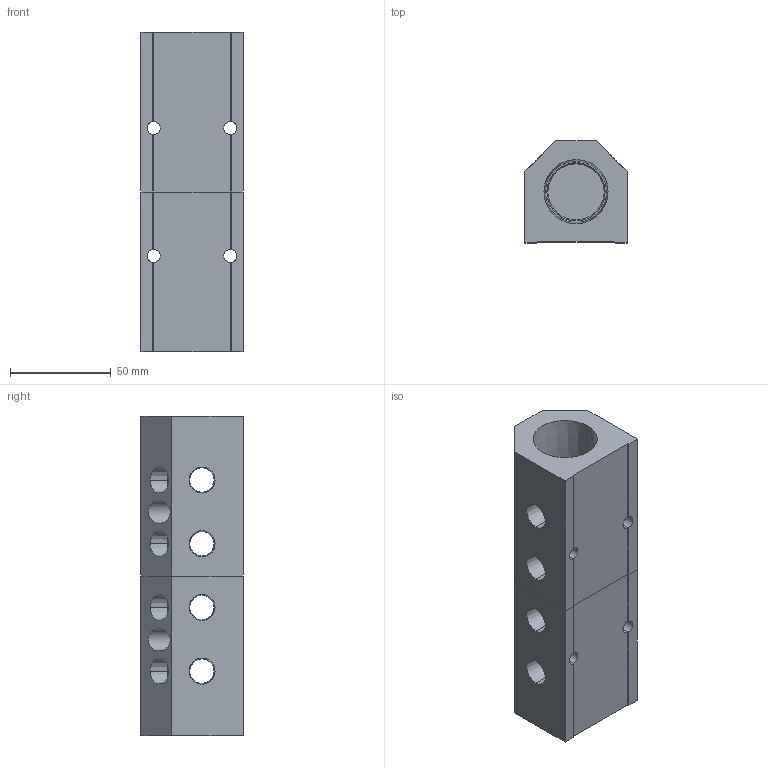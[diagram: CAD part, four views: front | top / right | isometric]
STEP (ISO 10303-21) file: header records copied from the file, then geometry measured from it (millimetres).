
FILE_DESCRIPTION (( 'STEP AP214' ), '1' );
FILE_NAME ('ALM4ABCDE-N4N16-159RB.STEP', '2023-11-02T06:09:53', ( '' ), ( '' ), 'SwSTEP 2.0', 'SolidWorks 2020', '' );
FILE_SCHEMA (( 'AUTOMOTIVE_DESIGN' ));
Length unit declared in the file: millimetre
Products named in the file (1): ALM4ABCDE-N4N16-159RB
Bounding box: 50.8 x 50.8 x 159 mm (x, y, z)
Volume: 228762.7 mm3; surface area: 61036.2 mm2
Topology: 2 solids, 2 shells, 410 faces, 1097 edges, 726 vertices
Faces by surface type: plane 272, bspline 66, cone 48, cylinder 24
Entity records: 22448 total; most frequent: CARTESIAN_POINT 8756, ORIENTED_EDGE 2194, DIRECTION 1671, EDGE_CURVE 1097, VECTOR 805, LINE 805, VERTEX_POINT 726, EDGE_LOOP 493
